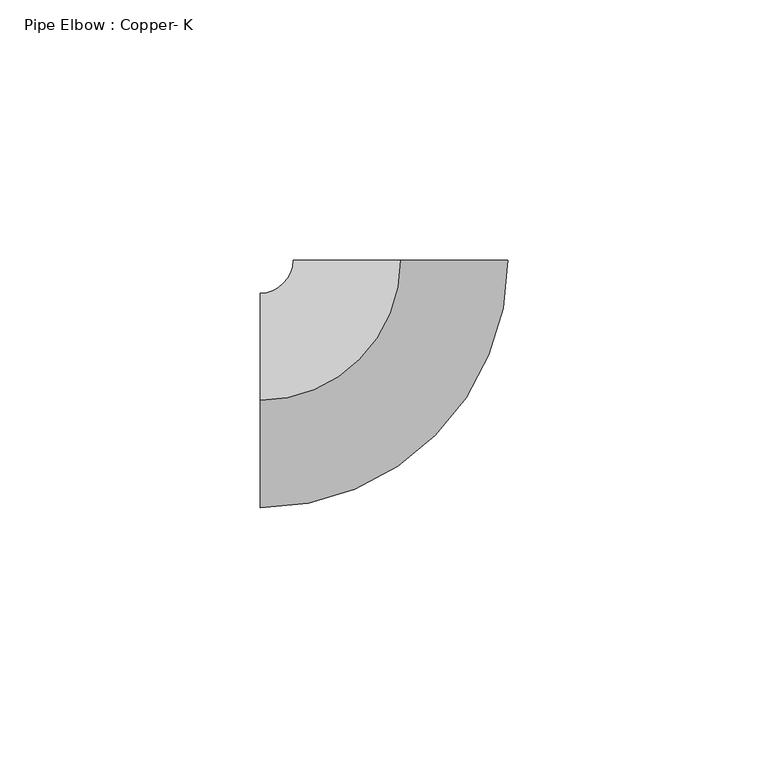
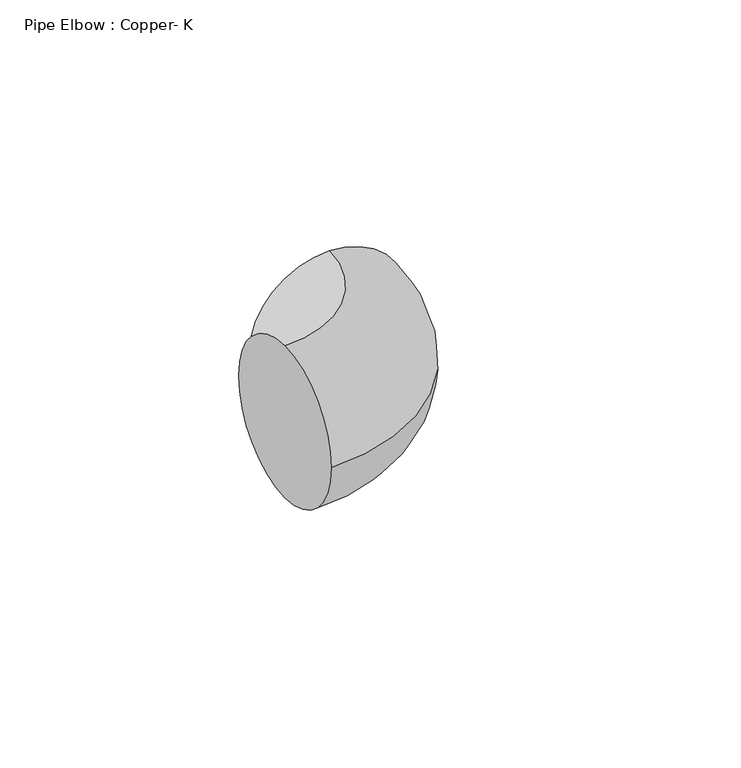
"""IFC4 building model written with IfcOpenShell, lengths in millimetres: pipe fitting geometry, Pipe Elbow : Copper- K."""

from ifc_helpers import new_model, si_unit, point, frame, origin, place, context, project, spatial, circle_curve, ellipse_curve, trimmed, source, transform, mapped, element, save
from ifc_brep_helpers import plane_surface, revolved_surface, advanced_brep


def pipe_elbow_copper_k_aee2f062(model_context):
    return source(origin(), model_context, "Body", "AdvancedBrep", [
        advanced_brep(
        [(-26.9875, 0.0, 20.6375), (-26.9875, 20.6375, 0.0), (-26.9875, 0.0, -20.6375), (-26.9875, -20.6375, 0.0), (0.0, 26.9875, 20.6375), (20.6375, 26.9875, 0.0), (0.0, 26.9875, -20.6375), (-20.6375, 26.9875, 0.0)],
        [
            (0, 1, circle_curve(frame((-26.9875, 0.0, 0.0), z_axis=(-1.0, 0.0, 0.0), x_axis=(0.0, 1.0, 0.0)), 20.6375)),
            (1, 2, circle_curve(frame((-26.9875, 0.0, 0.0), z_axis=(-1.0, 0.0, 0.0), x_axis=(0.0, 1.0, 0.0)), 20.6375)),
            (2, 3, circle_curve(frame((-26.9875, 0.0, 0.0), z_axis=(-1.0, 0.0, 0.0), x_axis=(0.0, 1.0, 0.0)), 20.6375)),
            (3, 0, circle_curve(frame((-26.9875, 0.0, 0.0), z_axis=(-1.0, 0.0, 0.0), x_axis=(0.0, 1.0, 0.0)), 20.6375)),
            (4, 5, circle_curve(frame((0.0, 26.9875, 0.0), z_axis=(0.0, 1.0, 0.0), x_axis=(-1.0, 0.0, 0.0)), 20.6375)),
            (5, 6, circle_curve(frame((0.0, 26.9875, 0.0), z_axis=(0.0, 1.0, 0.0), x_axis=(-1.0, 0.0, 0.0)), 20.6375)),
            (6, 7, circle_curve(frame((0.0, 26.9875, 0.0), z_axis=(0.0, 1.0, 0.0), x_axis=(-1.0, 0.0, 0.0)), 20.6375)),
            (7, 4, circle_curve(frame((0.0, 26.9875, 0.0), z_axis=(0.0, 1.0, 0.0), x_axis=(-1.0, 0.0, 0.0)), 20.6375)),
            (7, 1, circle_curve(frame((-26.9875, 26.9875, 0.0), z_axis=(0.0, 0.0, -1.0), x_axis=(0.0, -1.0, 0.0)), 6.35)),
            (0, 4, circle_curve(frame((-26.9875, 26.9875, 20.6375), z_axis=(0.0, 0.0, 1.0), x_axis=(0.0, -1.0, 0.0)), 26.9875)),
            (6, 2, circle_curve(frame((-26.9875, 26.9875, -20.6375), z_axis=(0.0, 0.0, -1.0), x_axis=(0.0, -1.0, 0.0)), 26.9875)),
            (5, 3, circle_curve(frame((-26.9875, 26.9875, 0.0), z_axis=(0.0, 0.0, -1.0), x_axis=(0.0, -1.0, 0.0)), 47.625)),
        ],
        [
            plane_surface(frame((-26.9875, 0.0, 0.0), z_axis=(-1.0, 0.0, 0.0), x_axis=(0.0, 0.0, 1.0))),
            plane_surface(frame((0.0, 26.9875, 0.0), z_axis=(0.0, 1.0, 0.0), x_axis=(0.0, 0.0, 1.0))),
            revolved_surface(trimmed(ellipse_curve(frame((-26.9875, 0.0, 0.0), z_axis=(-1.0, 0.0, 0.0), x_axis=(0.0, 1.0, 0.0)), 20.6375, 20.6375), [point((-26.9875, 0.0, 20.6375))], [point((-26.9875, 20.6375, 0.0))], True, "CARTESIAN"), (-26.9875, 26.9875, 0.0), (0.0, 0.0, 1.0)),
            revolved_surface(trimmed(ellipse_curve(frame((-26.9875, 0.0, 0.0), z_axis=(-1.0, 0.0, 0.0), x_axis=(0.0, 1.0, 0.0)), 20.6375, 20.6375), [point((-26.9875, 20.6375, 0.0))], [point((-26.9875, 0.0, -20.6375))], True, "CARTESIAN"), (-26.9875, 26.9875, 0.0), (0.0, 0.0, 1.0)),
            revolved_surface(trimmed(ellipse_curve(frame((-26.9875, 0.0, 0.0), z_axis=(-1.0, 0.0, 0.0), x_axis=(0.0, 1.0, 0.0)), 20.6375, 20.6375), [point((-26.9875, 0.0, -20.6375))], [point((-26.9875, -20.6375, 0.0))], True, "CARTESIAN"), (-26.9875, 26.9875, 0.0), (0.0, 0.0, 1.0)),
            revolved_surface(trimmed(ellipse_curve(frame((-26.9875, 0.0, 0.0), z_axis=(-1.0, 0.0, 0.0), x_axis=(0.0, 1.0, 0.0)), 20.6375, 20.6375), [point((-26.9875, -20.6375, 0.0))], [point((-26.9875, 0.0, 20.6375))], True, "CARTESIAN"), (-26.9875, 26.9875, 0.0), (0.0, 0.0, 1.0)),
        ],
        [
            (0, [[1, 2, 3, 4]]),
            (1, [[5, 6, 7, 8]]),
            (2, [[9, -1, 10, -8]]),
            (3, [[11, -2, -9, -7]]),
            (4, [[12, -3, -11, -6]]),
            (5, [[-10, -4, -12, -5]]),
        ],
    ),
        advanced_brep(
        [(-26.9875, 0.0, 20.6375), (-26.9875, 20.6375, 0.0), (-26.9875, 0.0, -20.6375), (-26.9875, -20.6375, 0.0), (0.0, 26.9875, 20.6375), (20.6375, 26.9875, 0.0), (0.0, 26.9875, -20.6375), (-20.6375, 26.9875, 0.0)],
        [
            (0, 1, circle_curve(frame((-26.9875, 0.0, 0.0), z_axis=(-1.0, 0.0, 0.0), x_axis=(0.0, 1.0, 0.0)), 20.6375)),
            (1, 2, circle_curve(frame((-26.9875, 0.0, 0.0), z_axis=(-1.0, 0.0, 0.0), x_axis=(0.0, 1.0, 0.0)), 20.6375)),
            (2, 3, circle_curve(frame((-26.9875, 0.0, 0.0), z_axis=(-1.0, 0.0, 0.0), x_axis=(0.0, 1.0, 0.0)), 20.6375)),
            (3, 0, circle_curve(frame((-26.9875, 0.0, 0.0), z_axis=(-1.0, 0.0, 0.0), x_axis=(0.0, 1.0, 0.0)), 20.6375)),
            (4, 5, circle_curve(frame((0.0, 26.9875, 0.0), z_axis=(0.0, 1.0, 0.0), x_axis=(-1.0, 0.0, 0.0)), 20.6375)),
            (5, 6, circle_curve(frame((0.0, 26.9875, 0.0), z_axis=(0.0, 1.0, 0.0), x_axis=(-1.0, 0.0, 0.0)), 20.6375)),
            (6, 7, circle_curve(frame((0.0, 26.9875, 0.0), z_axis=(0.0, 1.0, 0.0), x_axis=(-1.0, 0.0, 0.0)), 20.6375)),
            (7, 4, circle_curve(frame((0.0, 26.9875, 0.0), z_axis=(0.0, 1.0, 0.0), x_axis=(-1.0, 0.0, 0.0)), 20.6375)),
            (7, 1, circle_curve(frame((-26.9875, 26.9875, 0.0), z_axis=(0.0, 0.0, -1.0), x_axis=(0.0, -1.0, 0.0)), 6.35)),
            (0, 4, circle_curve(frame((-26.9875, 26.9875, 20.6375), z_axis=(0.0, 0.0, 1.0), x_axis=(0.0, -1.0, 0.0)), 26.9875)),
            (6, 2, circle_curve(frame((-26.9875, 26.9875, -20.6375), z_axis=(0.0, 0.0, -1.0), x_axis=(0.0, -1.0, 0.0)), 26.9875)),
            (5, 3, circle_curve(frame((-26.9875, 26.9875, 0.0), z_axis=(0.0, 0.0, -1.0), x_axis=(0.0, -1.0, 0.0)), 47.625)),
        ],
        [
            plane_surface(frame((-26.9875, 0.0, 0.0), z_axis=(-1.0, 0.0, 0.0), x_axis=(0.0, 0.0, 1.0))),
            plane_surface(frame((0.0, 26.9875, 0.0), z_axis=(0.0, 1.0, 0.0), x_axis=(0.0, 0.0, 1.0))),
            revolved_surface(trimmed(ellipse_curve(frame((-26.9875, 0.0, 0.0), z_axis=(-1.0, 0.0, 0.0), x_axis=(0.0, 1.0, 0.0)), 20.6375, 20.6375), [point((-26.9875, 0.0, 20.6375))], [point((-26.9875, 20.6375, 0.0))], True, "CARTESIAN"), (-26.9875, 26.9875, 0.0), (0.0, 0.0, 1.0)),
            revolved_surface(trimmed(ellipse_curve(frame((-26.9875, 0.0, 0.0), z_axis=(-1.0, 0.0, 0.0), x_axis=(0.0, 1.0, 0.0)), 20.6375, 20.6375), [point((-26.9875, 20.6375, 0.0))], [point((-26.9875, 0.0, -20.6375))], True, "CARTESIAN"), (-26.9875, 26.9875, 0.0), (0.0, 0.0, 1.0)),
            revolved_surface(trimmed(ellipse_curve(frame((-26.9875, 0.0, 0.0), z_axis=(-1.0, 0.0, 0.0), x_axis=(0.0, 1.0, 0.0)), 20.6375, 20.6375), [point((-26.9875, 0.0, -20.6375))], [point((-26.9875, -20.6375, 0.0))], True, "CARTESIAN"), (-26.9875, 26.9875, 0.0), (0.0, 0.0, 1.0)),
            revolved_surface(trimmed(ellipse_curve(frame((-26.9875, 0.0, 0.0), z_axis=(-1.0, 0.0, 0.0), x_axis=(0.0, 1.0, 0.0)), 20.6375, 20.6375), [point((-26.9875, -20.6375, 0.0))], [point((-26.9875, 0.0, 20.6375))], True, "CARTESIAN"), (-26.9875, 26.9875, 0.0), (0.0, 0.0, 1.0)),
        ],
        [
            (0, [[1, 2, 3, 4]]),
            (1, [[5, 6, 7, 8]]),
            (2, [[9, -1, 10, -8]]),
            (3, [[11, -2, -9, -7]]),
            (4, [[12, -3, -11, -6]]),
            (5, [[-10, -4, -12, -5]]),
        ],
    ),
    ])


if __name__ == "__main__":
    model = new_model("IFC4")
    model_context = context("Model", 3, world=origin())
    ifc_project = project(units=[si_unit("LENGTHUNIT", "METRE", prefix="MILLI")], contexts=[model_context])
    site = spatial("IfcSite", under=ifc_project)
    building = spatial("IfcBuilding", under=site)
    placement = place(None, origin())
    pipe_elbow_copper_k_shape = pipe_elbow_copper_k_aee2f062(model_context)
    element("IfcPipeFitting", 1, ObjectType="Pipe Elbow : Copper- K", at=placement, inside=building, context=model_context, shape_type="MappedRepresentation", body=[
        mapped(pipe_elbow_copper_k_shape, transform((0.0, 0.0, 0.0), x_axis=(1.0, 0.0, 0.0), y_axis=(0.0, 1.0, 0.0), z_axis=(0.0, 0.0, 1.0))),
    ])
    save(model, "model.ifc")
